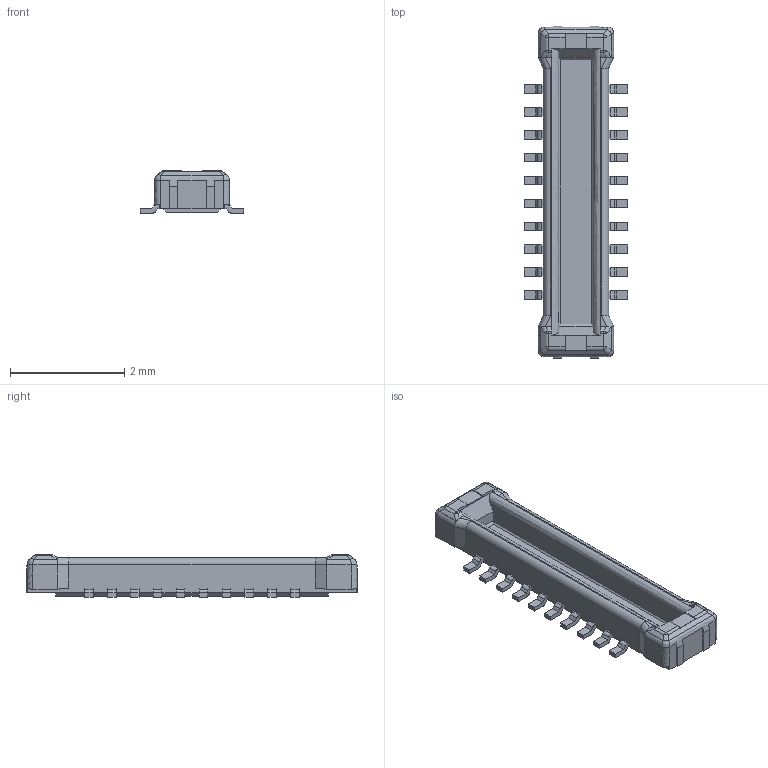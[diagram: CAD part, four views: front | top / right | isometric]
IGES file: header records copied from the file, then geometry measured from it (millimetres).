
Start section: SolidWorks IGES file using analytic representation for surfaces
Bounding box: 1.8 x 5.8 x 0.74 mm (x, y, z)
Surface area: 30.1 mm2 (no closed solid volume)
Topology: 0 solids, 0 shells, 335 faces, 2010 edges, 1995 vertices
Faces by surface type: bspline 255, revolution 80
